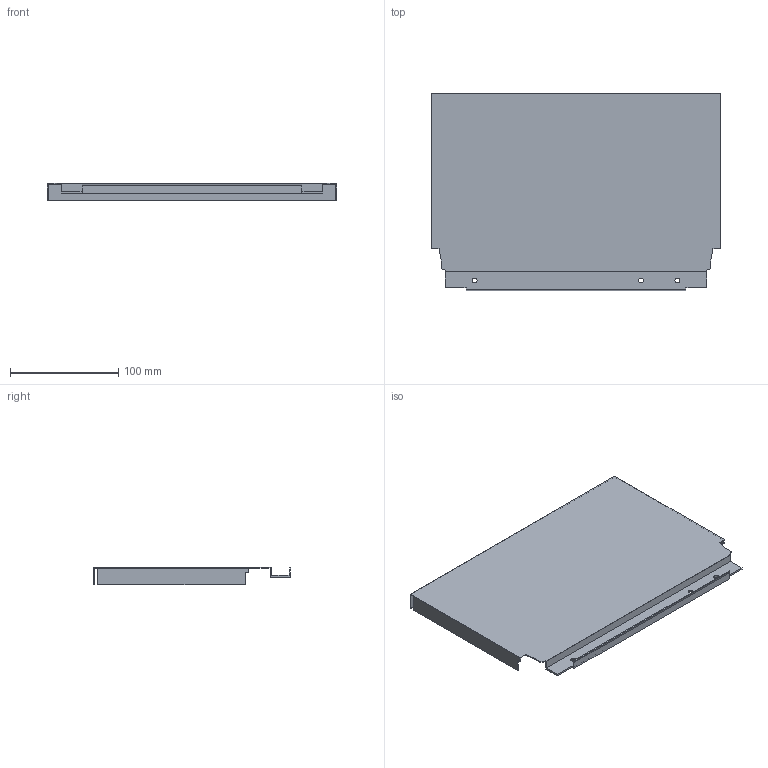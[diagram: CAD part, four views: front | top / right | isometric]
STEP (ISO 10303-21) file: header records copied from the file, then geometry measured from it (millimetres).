
FILE_DESCRIPTION (( 'STEP AP214' ), '1' );
FILE_NAME ('_DWD_XP Stahlrückwand_H182_KAB350_S16.step', '2010-07-08T12:57:31', ( 'grass' ), ( '' ), 'SwSTEP 2.0', 'SolidWorks 2010', '' );
FILE_SCHEMA (( 'AUTOMOTIVE_DESIGN' ));
Length unit declared in the file: millimetre
Products named in the file (1): _DWD_XP Stahlrückwand_H182_KAB350_S16
Bounding box: 267 x 182.49 x 16 mm (x, y, z)
Volume: 51089 mm3; surface area: 119565.2 mm2
Topology: 1 solids, 1 shells, 46 faces, 132 edges, 88 vertices
Faces by surface type: plane 40, cylinder 6
Entity records: 1534 total; most frequent: CARTESIAN_POINT 267, ORIENTED_EDGE 264, DIRECTION 238, EDGE_CURVE 132, VECTOR 120, LINE 120, VERTEX_POINT 88, AXIS2_PLACEMENT_3D 59
